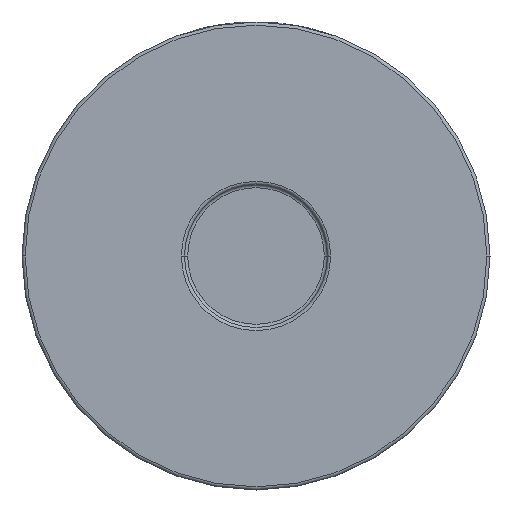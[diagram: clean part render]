
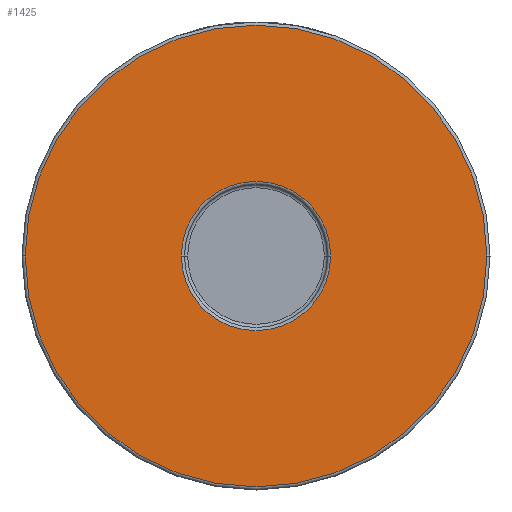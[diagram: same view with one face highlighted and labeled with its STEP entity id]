
A CAD part, front view. The second image highlights one B-rep face of the part: STEP entity #1425.
In plain terms, the highlighted planar face has unit normal (0, -1, 0).
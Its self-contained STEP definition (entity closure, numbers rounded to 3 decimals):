
#13 = DIRECTION ( 'NONE',  ( 0., -1., 0. ) ) ;
#171 = PLANE ( 'NONE',  #3831 ) ;
#334 = CIRCLE ( 'NONE', #4493, 73. ) ;
#355 = CIRCLE ( 'NONE', #1335, 73. ) ;
#412 = EDGE_CURVE ( 'NONE', #3902, #1385, #334, .T. ) ;
#478 = DIRECTION ( 'NONE',  ( 1., 0., 0. ) ) ;
#600 = DIRECTION ( 'NONE',  ( 0., -1., 0. ) ) ;
#767 = CARTESIAN_POINT ( 'NONE',  ( 73., -31., 0. ) ) ;
#984 = VERTEX_POINT ( 'NONE', #1629 ) ;
#1266 = EDGE_LOOP ( 'NONE', ( #2468, #3881 ) ) ;
#1335 = AXIS2_PLACEMENT_3D ( 'NONE', #2090, #600, #2826 ) ;
#1385 = VERTEX_POINT ( 'NONE', #767 ) ;
#1425 = ADVANCED_FACE ( 'NONE', ( #2674, #3384 ), #171, .T. ) ;
#1535 = EDGE_CURVE ( 'NONE', #1385, #3902, #355, .T. ) ;
#1629 = CARTESIAN_POINT ( 'NONE',  ( 23.6, -31., 0. ) ) ;
#1635 = AXIS2_PLACEMENT_3D ( 'NONE', #3642, #1882, #2938 ) ;
#1852 = CARTESIAN_POINT ( 'NONE',  ( -73., -31., 0. ) ) ;
#1882 = DIRECTION ( 'NONE',  ( 0., 1., 0. ) ) ;
#1905 = CARTESIAN_POINT ( 'NONE',  ( 0., -31., 0. ) ) ;
#1954 = DIRECTION ( 'NONE',  ( 1., 0., 0. ) ) ;
#2090 = CARTESIAN_POINT ( 'NONE',  ( 0., -31., 0. ) ) ;
#2154 = CIRCLE ( 'NONE', #2453, 23.6 ) ;
#2203 = CARTESIAN_POINT ( 'NONE',  ( 0., -31., 0. ) ) ;
#2453 = AXIS2_PLACEMENT_3D ( 'NONE', #1905, #4035, #478 ) ;
#2468 = ORIENTED_EDGE ( 'NONE', *, *, #2698, .T. ) ;
#2480 = DIRECTION ( 'NONE',  ( 1., 0., 0. ) ) ;
#2674 = FACE_BOUND ( 'NONE', #1266, .T. ) ;
#2698 = EDGE_CURVE ( 'NONE', #984, #3979, #2154, .T. ) ;
#2826 = DIRECTION ( 'NONE',  ( 1., 0., 0. ) ) ;
#2938 = DIRECTION ( 'NONE',  ( 1., 0., 0. ) ) ;
#2969 = DIRECTION ( 'NONE',  ( 0., -1., 0. ) ) ;
#3025 = CARTESIAN_POINT ( 'NONE',  ( -23.6, -31., 0. ) ) ;
#3202 = ORIENTED_EDGE ( 'NONE', *, *, #1535, .T. ) ;
#3348 = ORIENTED_EDGE ( 'NONE', *, *, #412, .T. ) ;
#3384 = FACE_OUTER_BOUND ( 'NONE', #3652, .T. ) ;
#3417 = CIRCLE ( 'NONE', #1635, 23.6 ) ;
#3627 = EDGE_CURVE ( 'NONE', #3979, #984, #3417, .T. ) ;
#3642 = CARTESIAN_POINT ( 'NONE',  ( 0., -31., 0. ) ) ;
#3652 = EDGE_LOOP ( 'NONE', ( #3202, #3348 ) ) ;
#3831 = AXIS2_PLACEMENT_3D ( 'NONE', #4061, #2969, #1954 ) ;
#3881 = ORIENTED_EDGE ( 'NONE', *, *, #3627, .T. ) ;
#3902 = VERTEX_POINT ( 'NONE', #1852 ) ;
#3979 = VERTEX_POINT ( 'NONE', #3025 ) ;
#4035 = DIRECTION ( 'NONE',  ( 0., 1., 0. ) ) ;
#4061 = CARTESIAN_POINT ( 'NONE',  ( 74., -31., 0. ) ) ;
#4493 = AXIS2_PLACEMENT_3D ( 'NONE', #2203, #13, #2480 ) ;
